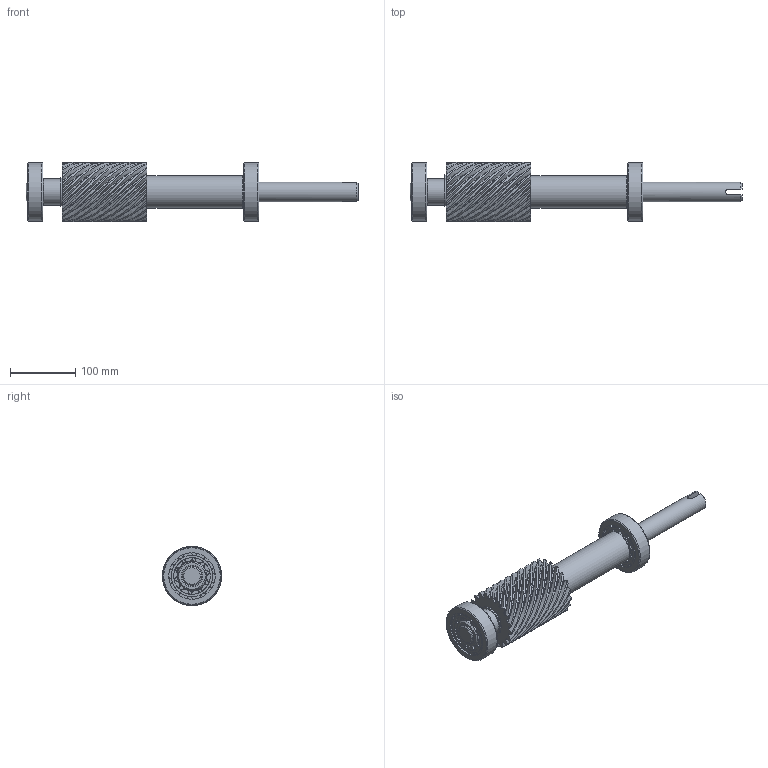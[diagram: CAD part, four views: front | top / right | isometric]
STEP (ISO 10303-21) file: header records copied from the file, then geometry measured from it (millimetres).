
FILE_DESCRIPTION(/* description */ (''),/* implementation_level */ '2;1');
FILE_NAME(/* name */ 'G:\YandexDisk\Работа\Inventor\Универ\ОАП\Лабораторные работы\ЛР6 Создание сборок\Редуктор\stp\Вал 3 в сборе.stp',/* time_stamp */ '2023-11-17T06:29:45+03:00',/* author */ ('34740'),/* organization */ (''),/* preprocessor_version */ 'ST-DEVELOPER v18.1',/* originating_system */ 'Autodesk Inventor 2022',/* authorisation */ '');
FILE_SCHEMA (('AUTOMOTIVE_DESIGN { 1 0 10303 214 3 1 1 }'));
Products named in the file (5): Вал 3 в сборе; Вал 3; Стопорное кольцо 
DIN 471 - 40 x 2.5; Червяк 1; ISO 15 - 30 x 90 x 23
Assembly tree (5 placements, depth 2):
  Вал 3 в сборе
    Вал 3
    ISO 15 - 30 x 90 x 23  x2
    Стопорное кольцо 
DIN 471 - 40 x 2.5
    Червяк 1
Bounding box: 510.59 x 90.85 x 90.85 mm (x, y, z)
Volume: 1397388.4 mm3; surface area: 260524.1 mm2
Topology: 5 solids, 5 shells, 587 faces, 1680 edges, 1120 vertices
Faces by surface type: cylinder 224, plane 186, torus 88, bspline 80, cone 9
Full cylindrical faces by diameter (mm): 2.5 x2, 30 x4, 37.5 x1, 40 x1, 44.7 x2, 50 x1, 56.172 x2, 63.828 x2, 71.475 x4, 75.3 x2, 90 x2
Entity records: 57308 total; most frequent: CARTESIAN_POINT 45649, ORIENTED_EDGE 2556, DIRECTION 2398, EDGE_CURVE 1278, AXIS2_PLACEMENT_3D 991, VERTEX_POINT 852, CIRCLE 616, EDGE_LOOP 504
